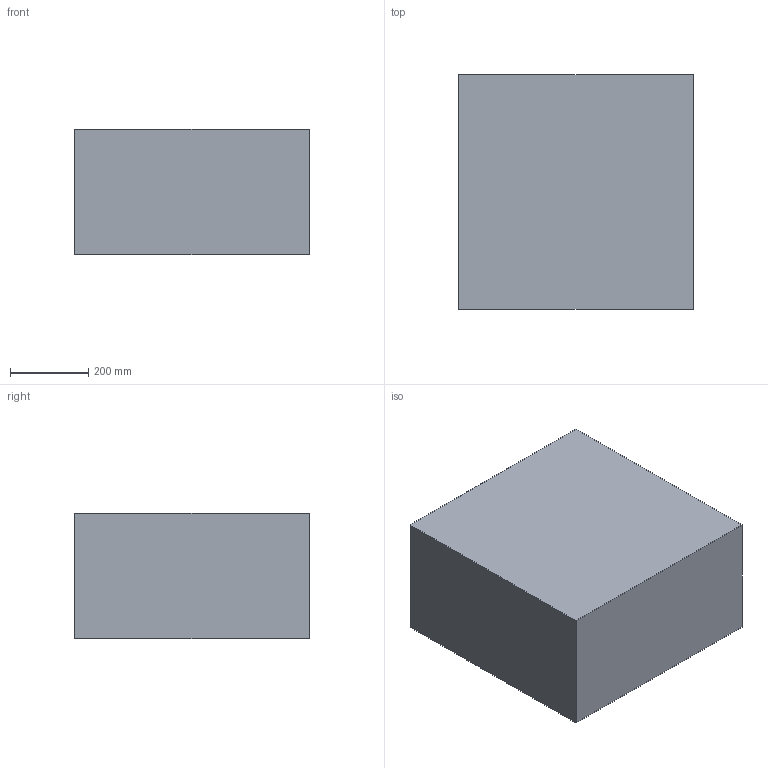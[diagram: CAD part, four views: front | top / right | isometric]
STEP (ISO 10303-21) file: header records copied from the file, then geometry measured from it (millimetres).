
FILE_DESCRIPTION(('FreeCAD Model'),'2;1');
FILE_NAME('Open CASCADE Shape Model','2026-03-31T09:54:01',('FreeCAD'),( 'FreeCAD'),'Open CASCADE STEP processor 7.8','FreeCAD','Unknown');
FILE_SCHEMA(('AUTOMOTIVE_DESIGN { 1 0 10303 214 1 1 1 1 }'));
Length unit declared in the file: millimetre
Products named in the file (1): Open CASCADE STEP translator 7.8 4
Bounding box: 600 x 600 x 320 mm (x, y, z)
Volume: 115200000 mm3; surface area: 1488000 mm2
Topology: 1 solids, 1 shells, 6 faces, 12 edges, 8 vertices
Faces by surface type: plane 6
Entity records: 166 total; most frequent: CARTESIAN_POINT 27, DIRECTION 26, ORIENTED_EDGE 24, EDGE_CURVE 12, LINE 12, VECTOR 12, VERTEX_POINT 8, AXIS2_PLACEMENT_3D 7
